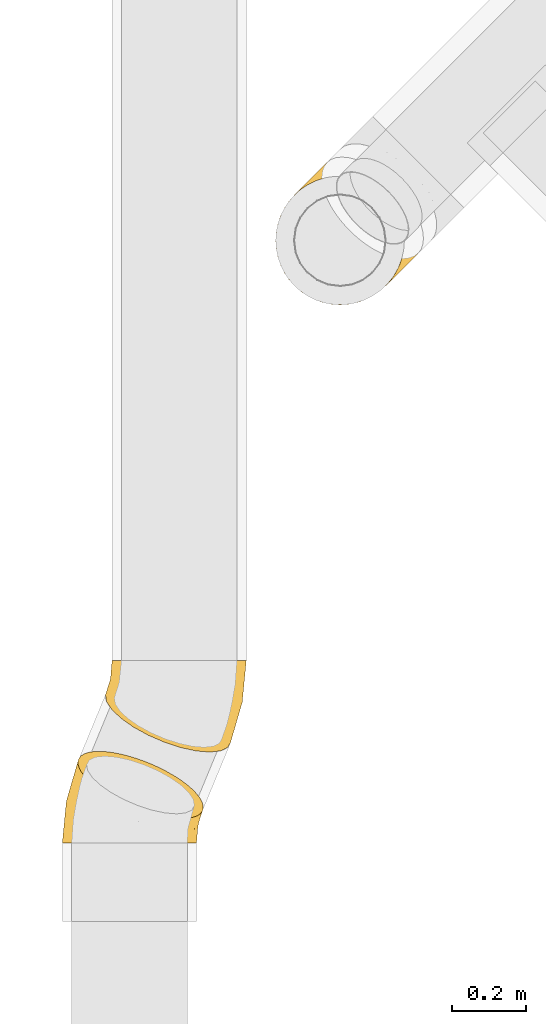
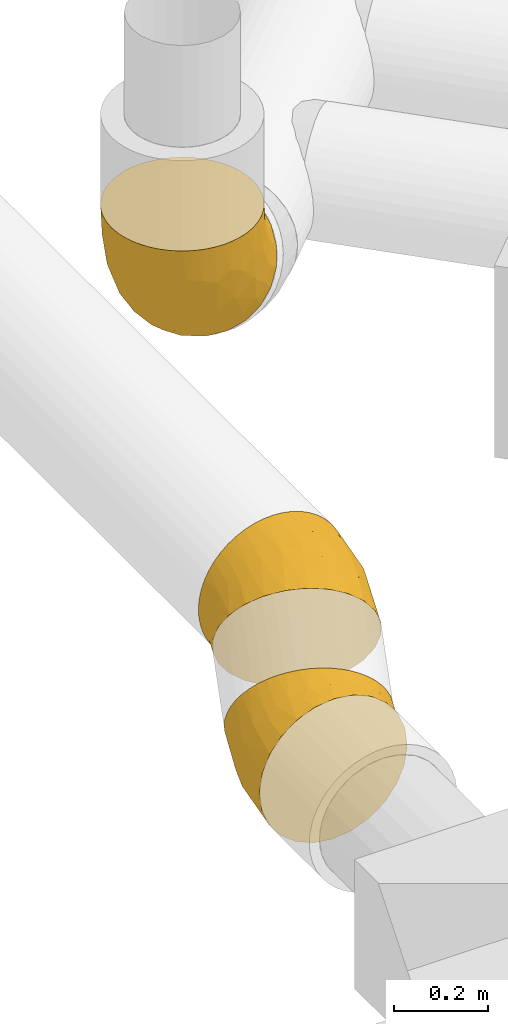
# One storey, part 2 of 12: 3 coverings.
"""IFC2X3 building model written with IfcOpenShell, lengths in millimetres."""

from ifc_helpers import new_model, entity, si_unit, converted_unit, derived_unit, direction, frame, origin_with_axes, place, context, subcontext, project, spatial, open_shell, surface_model, source, transform, mapped, element, save


model = new_model("IFC2X3")

# Units and contexts
model_context = context("Model", 3, precision=0.01, world=frame((0.0, 4.29681676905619e-09, 0.0)), true_north=direction((4.01073788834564e-13, 1.0)))
plan_context = context("Plan", 3, precision=0.01, world=frame((0.0, 4.29681676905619e-09, 0.0)), true_north=direction((4.01073788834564e-13, 1.0)))
body_context = subcontext(model_context, "Body", "Model", "MODEL_VIEW")
ifc_project = project(units=[converted_unit("PLANEANGLEUNIT", "DEGREE", entity("IfcPositiveLengthMeasure", 0.0174532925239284), si_unit("PLANEANGLEUNIT", "RADIAN"), dimensions=[0, 0, 0, 0, 0, 0, 0]), si_unit("AREAUNIT", "SQUARE_METRE"), si_unit("LENGTHUNIT", "METRE", prefix="MILLI"), si_unit("MASSUNIT", "GRAM", prefix="KILO"), si_unit("POWERUNIT", "WATT"), si_unit("PRESSUREUNIT", "PASCAL", prefix="KILO"), si_unit("FORCEUNIT", "NEWTON", prefix="KILO"), si_unit("ELECTRICVOLTAGEUNIT", "VOLT"), si_unit("ELECTRICCURRENTUNIT", "AMPERE"), si_unit("THERMODYNAMICTEMPERATUREUNIT", "DEGREE_CELSIUS"), si_unit("TIMEUNIT", "SECOND"), si_unit("VOLUMEUNIT", "CUBIC_METRE"), derived_unit("LINEARVELOCITYUNIT", [(si_unit("LENGTHUNIT", "METRE"), 1), (si_unit("TIMEUNIT", "SECOND"), -1)]), derived_unit("VOLUMETRICFLOWRATEUNIT", [(si_unit("VOLUMEUNIT", "CUBIC_METRE"), 1), (si_unit("TIMEUNIT", "SECOND"), -1)]), derived_unit("THERMALTRANSMITTANCEUNIT", [(si_unit("POWERUNIT", "WATT"), 1), (si_unit("THERMODYNAMICTEMPERATUREUNIT", "KELVIN"), -1), (si_unit("AREAUNIT", "SQUARE_METRE"), -1)]), derived_unit("SOUNDPRESSUREUNIT", [(si_unit("PRESSUREUNIT", "PASCAL"), 1)])], contexts=[model_context, plan_context])

# Site, building, storey
site_placement = place(None, frame((0.0, -4.29681676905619e-09, 0.0), z_axis=(0.0, 0.0, 1.0), x_axis=(1.0, 0.0, 0.0)))
site = spatial("IfcSite", under=ifc_project, at=site_placement, CompositionType="ELEMENT")
building_placement = place(site_placement, frame((0.0, 4.29681676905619e-09, 0.0), z_axis=(0.0, 0.0, 1.0), x_axis=(1.0, 0.0, 0.0)))
building = spatial("IfcBuilding", under=site, at=building_placement, Name="mc-building", CompositionType="ELEMENT")
storey_placement = place(building_placement, frame((0.0, 0.0, 204000.0), z_axis=(0.0, 0.0, 1.0), x_axis=(1.0, 0.0, 0.0)))
storey = spatial("IfcBuildingStorey", under=building, at=storey_placement, Name="Nivå D", CompositionType="ELEMENT", Elevation=204000.0)

# Coverings
shared_shape_1 = source(origin_with_axes(), body_context, "Body", "SurfaceModel", [
    surface_model("IfcShellBasedSurfaceModel", [(-79.38566, 212.5, 0.0), (-67.84798, 205.83871, 66.9732), (-59.07909, 200.77599, 87.50425), (130.15954, 91.51902, -161.68208), (32.94131, 147.64799, -169.0363), (-78.08893, 211.75134, 22.84352), (-74.22096, 209.51815, 45.29598), (-48.06439, 194.41666, 106.53786), (-34.99237, 186.86952, 123.74833), (-3.60259, 168.74662, 151.55835), (14.17803, 158.48097, 161.68208), (32.95086, 147.64248, 169.03926), (164.42432, 71.73625, -138.84124), (-20.08674, 178.26376, 138.84124), (203.42216, 49.22083, 87.49324), (-67.85201, 205.84105, -66.96196), (-48.07126, 194.42062, -106.52751), (-74.22351, 209.51962, -45.28496), (-59.08459, 200.77917, -87.49324), (-35.00042, 186.87417, -123.73904), (-3.61212, 168.75213, -151.55199), (-78.09011, 211.75201, -22.83318), (14.16829, 158.4866, -161.67743), (-20.0957, 178.26893, -138.8333), (72.16878, 125.0, -175.0), (52.38572, 136.42176, -173.50265), (111.38671, 102.35751, -169.03926), (52.39467, 136.41659, 173.50402), (72.16878, 125.0, 175.0), (91.95185, 113.57824, 173.50265), (111.39625, 102.35201, 169.0363), (147.94969, 81.24788, 151.55199), (130.16928, 91.5134, 161.67743), (179.33798, 63.12583, 123.73904), (164.43328, 71.73107, 138.8333), (192.40882, 55.57938, 106.52751), (203.41665, 49.224, -87.50425), (218.56108, 40.48037, 45.28496), (223.72323, 37.5, 0.0), (212.18957, 44.15896, 66.96196), (222.42768, 38.24799, 22.83318), (179.32993, 63.13048, -123.74833), (192.40196, 55.58335, -106.53786), (147.94015, 81.25338, -151.55835), (91.9429, 113.58341, -173.50402), (222.4265, 38.24867, -22.84352), (212.18554, 44.16129, -66.9732), (218.55852, 40.48184, -45.29598), (-144.33757, 87.5, -151.55445), (-144.33757, 175.0, 0.0), (-144.33757, 169.03701, -45.29333), (-144.33757, 151.55445, -87.5), (-144.33757, 45.29333, -169.03701), (-144.33757, 123.74369, -123.74369), (-144.33757, 169.03701, 45.29333), (-144.33757, 151.55445, 87.5), (-144.33757, -151.55445, -87.5), (-144.33757, 123.74369, 123.74369), (-144.33757, 45.29333, 169.03701), (-144.33757, 87.5, 151.55445), (-144.33757, 0.0, 175.0), (-144.33757, -45.29333, 169.03701), (-144.33757, 0.0, -175.0), (-144.33757, -45.29333, -169.03701), (-144.33757, -87.5, -151.55445), (-144.33757, -123.74369, -123.74369), (-144.33757, -169.03701, -45.29333), (-144.33757, -123.74369, 123.74369), (-144.33757, -87.5, 151.55445), (-144.33757, -169.03701, 45.29333), (-144.33757, -151.55445, 87.5), (-144.33757, -175.0, 0.0), (40.06302, -132.91177, 0.0), (6.68277, -139.21132, 50.73684), (-19.06662, -156.11845, 0.0), (-80.9946, -170.25311, 0.0), (2.60875, 47.74575, 175.0), (52.32182, 30.97999, 169.28574), (41.44864, 82.71735, 175.0), (95.07346, -101.15147, 0.0), (84.04531, -102.78749, 40.4577), (66.5161, -91.62378, 87.67211), (144.73584, -61.54705, 0.0), (-73.25033, -156.63146, 64.20023), (49.40042, -46.86711, 140.37966), (-31.52467, -95.77202, 133.02259), (40.21212, -80.86093, 118.41707), (-51.97833, -161.92204, 31.45844), (144.58452, -24.3132, 92.74705), (102.60106, -28.30655, 125.39878), (-57.89273, -132.37083, 102.25041), (-45.31639, -24.30523, 169.97609), (-42.65341, 21.61364, 175.0), (-92.35964, 5.4631, 175.0), (-63.24981, -67.5687, 156.7761), (92.02657, 12.84579, 153.06577), (18.52422, -32.08489, 157.76862), (148.21683, -47.17155, 52.26849), (187.94082, -14.98317, 0.0), (-89.71961, 200.18449, 0.0), (-90.88522, 194.31459, 27.58769), (-82.73672, 60.41205, 167.50829), (-16.25294, 104.61857, 165.7155), (-35.85062, 142.42326, 145.51136), (-67.94646, 117.6876, 145.51135), (-1.88156, 79.15042, 172.81756), (-43.21446, 73.97928, 168.57058), (-124.58674, 163.91563, 66.9696), (-128.4833, 174.07152, 29.85857), (19.8687, 109.87423, 171.63914), (1.62434, 130.56358, 163.87504), (-110.52498, 177.48868, 41.56339), (-118.68606, 179.52305, 0.0), (-111.0545, 143.93641, 106.53324), (-110.36765, 110.61294, 138.83683), (-64.55999, 162.46884, 115.39017), (-108.47182, 161.52168, 82.13327), (-102.26014, 84.26726, 156.14912), (-69.98626, 89.50322, 158.99308), (-84.19834, 190.94249, 56.25505), (-94.16902, 171.63373, 77.40446), (-97.15411, 183.7371, 46.69668), (-96.1285, 192.54666, 0.0), (-107.40728, 186.03487, 0.0), (-76.58871, 178.68684, 87.35857), (-84.40493, 143.1351, 119.89479), (-131.51181, 177.26153, 0.0), (-103.91497, 83.9564, -156.09967), (-94.47847, 190.85772, -28.61076), (-85.12607, 147.44211, -115.38033), (-70.15342, 176.4161, -97.21854), (-50.36424, 153.62147, -131.56789), (-87.75708, 202.52334, 0.0), (-118.68329, 175.9541, -34.1486), (-129.2239, 168.16506, -53.00048), (25.92901, 108.75861, -172.61782), (2.60875, 47.74575, -175.0), (-22.98429, 78.37134, -170.41351), (-88.69094, 186.69651, -56.24389), (-103.99422, 179.40582, -46.56489), (-118.45724, 141.89145, -106.53326), (-92.35964, 5.4631, -175.0), (-25.01109, 140.56007, -151.21418), (-104.2944, 112.23479, -138.83684), (-77.69359, 195.39202, -61.49208), (-75.30749, 99.17501, -153.45157), (-66.01884, 129.61265, -138.95492), (-82.73671, 60.41206, -167.50829), (-42.65341, 21.61364, -175.0), (-1.83429, 118.7372, -165.71171), (-41.54099, 111.35628, -156.95078), (-84.7549, 199.10473, -34.13215), (-93.18492, 168.83241, -83.01192), (-114.03556, 167.03975, -66.96961), (-125.72706, 156.83788, -81.24571), (41.44864, 82.71735, -175.0), (-103.51808, 154.36271, -96.4593), (9.59552, -16.61993, -165.156), (-61.76948, -64.07957, -158.23157), (-64.88535, -27.43869, -170.69189), (-59.97022, -101.91174, -134.5625), (52.56771, -88.31484, -103.04619), (-39.48477, -128.44337, -101.29974), (5.87723, -137.83605, -55.66695), (108.03059, -73.2318, -70.69845), (35.7655, -61.94549, -135.94125), (85.36115, 5.22148, -152.5933), (60.77116, 40.94038, -169.66664), (125.7509, -25.85714, -110.0534), (123.69519, 7.16512, -134.73389), (-75.06419, -156.91553, -64.27236), (-51.99396, -161.89884, -31.60068), (119.05524, -79.09611, -34.7206), (167.61987, -26.24389, -53.29553), (152.63569, -23.35313, -83.80713)], [open_shell([[[0, 1, 2]], [[0, 3, 4]], [[5, 6, 1]], [[5, 1, 0]], [[2, 7, 8]], [[9, 10, 11]], [[9, 12, 13]], [[2, 3, 0]], [[2, 13, 12]], [[13, 2, 8]], [[11, 14, 9]], [[15, 4, 16]], [[17, 4, 15]], [[15, 16, 18]], [[19, 16, 20]], [[17, 21, 0]], [[20, 4, 22]], [[20, 23, 19]], [[4, 24, 25]], [[20, 16, 4]], [[4, 17, 0]], [[4, 26, 24]], [[11, 27, 28]], [[29, 30, 11]], [[11, 30, 14]], [[14, 30, 31]], [[31, 30, 32]], [[33, 31, 34]], [[33, 35, 14]], [[14, 36, 9]], [[14, 37, 38]], [[37, 14, 39]], [[14, 31, 33]], [[40, 38, 37]], [[41, 12, 42]], [[3, 12, 43]], [[4, 3, 26]], [[12, 3, 2]], [[44, 24, 26]], [[36, 14, 45]], [[46, 45, 47]], [[36, 42, 12]], [[36, 45, 46]], [[36, 12, 9]], [[14, 38, 45]], [[29, 11, 28]], [[48, 49, 50]], [[48, 50, 51]], [[48, 52, 49]], [[48, 51, 53]], [[49, 52, 54]], [[55, 56, 57]], [[55, 54, 52]], [[57, 58, 59]], [[58, 57, 56]], [[60, 58, 61]], [[52, 62, 55]], [[62, 63, 64]], [[64, 56, 55]], [[58, 56, 61]], [[56, 64, 65]], [[61, 56, 66]], [[61, 67, 68]], [[67, 61, 69]], [[67, 69, 70]], [[61, 66, 69]], [[66, 71, 69]], [[64, 55, 62]], [[72, 73, 74]], [[75, 69, 71]], [[76, 77, 78]], [[29, 78, 77]], [[72, 79, 80]], [[81, 73, 80]], [[79, 82, 80]], [[70, 69, 83]], [[84, 85, 86]], [[73, 83, 87]], [[81, 88, 89]], [[67, 90, 85]], [[87, 75, 74]], [[91, 92, 93]], [[94, 61, 68]], [[60, 61, 91]], [[95, 30, 77]], [[60, 91, 93]], [[95, 34, 31]], [[91, 76, 92]], [[88, 39, 14]], [[96, 77, 91]], [[33, 88, 35]], [[77, 76, 91]], [[96, 94, 85]], [[94, 96, 91]], [[80, 82, 97]], [[86, 90, 81]], [[14, 35, 88]], [[33, 89, 88]], [[98, 40, 97]], [[88, 97, 39]], [[81, 80, 97]], [[37, 97, 40]], [[73, 87, 74]], [[97, 37, 39]], [[69, 87, 83]], [[98, 38, 40]], [[67, 85, 68]], [[90, 83, 73]], [[89, 86, 81]], [[29, 77, 30]], [[34, 95, 89]], [[77, 96, 95]], [[90, 67, 70]], [[28, 78, 29]], [[85, 94, 68]], [[95, 31, 32]], [[81, 90, 73]], [[97, 88, 81]], [[61, 94, 91]], [[30, 95, 32]], [[34, 89, 33]], [[83, 90, 70]], [[87, 69, 75]], [[82, 98, 97]], [[72, 80, 73]], [[84, 95, 96]], [[84, 86, 89]], [[90, 86, 85]], [[95, 84, 89]], [[85, 84, 96]], [[60, 93, 58]], [[99, 100, 5]], [[93, 92, 101]], [[6, 5, 100]], [[102, 103, 104]], [[76, 105, 106]], [[106, 92, 76]], [[101, 58, 93]], [[54, 107, 108]], [[109, 110, 102]], [[49, 54, 108]], [[107, 54, 55]], [[5, 0, 99]], [[108, 111, 112]], [[113, 57, 114]], [[115, 104, 103]], [[105, 109, 102]], [[55, 57, 113]], [[116, 111, 107]], [[115, 8, 7]], [[114, 117, 118]], [[100, 119, 6]], [[27, 11, 109]], [[120, 121, 111]], [[8, 115, 103]], [[9, 103, 110]], [[58, 101, 117]], [[103, 102, 110]], [[122, 123, 121]], [[112, 111, 123]], [[28, 27, 78]], [[118, 101, 106]], [[10, 110, 11]], [[9, 13, 103]], [[124, 1, 119]], [[105, 78, 109]], [[120, 116, 125]], [[1, 6, 119]], [[111, 121, 123]], [[100, 121, 119]], [[99, 122, 100]], [[119, 121, 120]], [[78, 27, 109]], [[124, 119, 120]], [[103, 13, 8]], [[124, 2, 1]], [[115, 125, 104]], [[124, 7, 2]], [[121, 100, 122]], [[114, 57, 59]], [[118, 117, 101]], [[125, 114, 104]], [[55, 113, 107]], [[116, 107, 113]], [[106, 105, 102]], [[78, 105, 76]], [[118, 102, 104]], [[92, 106, 101]], [[102, 118, 106]], [[114, 118, 104]], [[114, 59, 117]], [[58, 117, 59]], [[111, 108, 107]], [[108, 112, 126]], [[11, 110, 109]], [[110, 10, 9]], [[120, 115, 124]], [[124, 115, 7]], [[120, 125, 115]], [[114, 125, 113]], [[125, 116, 113]], [[111, 116, 120]], [[49, 108, 126]], [[127, 52, 48]], [[128, 123, 122]], [[129, 130, 131]], [[130, 19, 131]], [[132, 0, 21]], [[126, 133, 134]], [[135, 136, 137]], [[138, 139, 128]], [[122, 132, 128]], [[51, 140, 53]], [[141, 62, 52]], [[22, 142, 20]], [[23, 142, 131]], [[143, 48, 53]], [[144, 18, 130]], [[145, 143, 146]], [[130, 138, 144]], [[142, 23, 20]], [[147, 148, 141]], [[141, 52, 147]], [[149, 135, 137]], [[137, 150, 149]], [[17, 151, 21]], [[145, 137, 147]], [[143, 53, 140]], [[132, 21, 151]], [[134, 51, 50]], [[17, 15, 144]], [[149, 22, 4]], [[137, 148, 147]], [[19, 23, 131]], [[130, 18, 16]], [[140, 129, 143]], [[138, 151, 144]], [[149, 142, 22]], [[131, 142, 146]], [[135, 4, 25]], [[130, 129, 152]], [[25, 24, 135]], [[153, 154, 134]], [[24, 155, 135]], [[146, 129, 131]], [[127, 143, 145]], [[142, 150, 146]], [[128, 151, 138]], [[150, 142, 149]], [[153, 152, 156]], [[130, 16, 19]], [[148, 137, 136]], [[153, 139, 152]], [[17, 144, 151]], [[144, 15, 18]], [[138, 152, 139]], [[139, 123, 128]], [[133, 139, 153]], [[112, 123, 133]], [[130, 152, 138]], [[152, 129, 156]], [[153, 134, 133]], [[156, 154, 153]], [[126, 50, 49]], [[126, 112, 133]], [[126, 134, 50]], [[140, 51, 154]], [[51, 134, 154]], [[145, 146, 150]], [[143, 129, 146]], [[137, 145, 150]], [[127, 145, 147]], [[52, 127, 147]], [[48, 143, 127]], [[135, 155, 136]], [[4, 135, 149]], [[128, 132, 151]], [[133, 123, 139]], [[129, 140, 156]], [[156, 140, 154]], [[157, 158, 159]], [[160, 161, 162]], [[163, 161, 164]], [[159, 62, 141]], [[157, 159, 148]], [[160, 158, 165]], [[166, 167, 3]], [[168, 41, 42]], [[165, 166, 169]], [[136, 157, 148]], [[166, 157, 167]], [[63, 62, 159]], [[66, 56, 170]], [[148, 159, 141]], [[75, 71, 66]], [[72, 171, 163]], [[163, 162, 161]], [[162, 170, 56]], [[160, 162, 65]], [[163, 164, 172]], [[161, 168, 164]], [[171, 66, 170]], [[136, 155, 167]], [[171, 72, 74]], [[163, 170, 162]], [[165, 157, 166]], [[155, 44, 167]], [[63, 159, 158]], [[44, 26, 167]], [[82, 172, 173]], [[165, 158, 157]], [[43, 166, 3]], [[43, 169, 166]], [[161, 160, 165]], [[174, 42, 36]], [[161, 165, 168]], [[158, 160, 64]], [[12, 169, 43]], [[63, 158, 64]], [[174, 173, 164]], [[47, 173, 46]], [[167, 157, 136]], [[172, 72, 163]], [[98, 82, 173]], [[173, 172, 164]], [[173, 174, 46]], [[98, 173, 45]], [[172, 82, 79]], [[38, 98, 45]], [[56, 65, 162]], [[173, 47, 45]], [[164, 168, 174]], [[167, 26, 3]], [[169, 41, 168]], [[160, 65, 64]], [[44, 155, 24]], [[172, 79, 72]], [[74, 75, 171]], [[66, 171, 75]], [[163, 171, 170]], [[42, 174, 168]], [[46, 174, 36]], [[41, 169, 12]], [[165, 169, 168]]])]),
])
covering_1_placement = place(storey_placement, frame((597169.2875, 403005.94192, 2805.09680999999), z_axis=(-0.707230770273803, 0.706982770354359, 4.71844785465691e-16), x_axis=(-0.612265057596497, -0.612479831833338, 0.499999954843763)))
element("IfcCovering", 1, at=covering_1_placement, inside=storey, Name="EI30-30", PredefinedType="INSULATION", context=body_context, shape_type="MappedRepresentation", body=[
    mapped(shared_shape_1, transform((0.0, 0.0, 0.0), scale=1.0)),
])
shared_shape_2 = source(origin_with_axes(), body_context, "Body", "SurfaceModel", [
    surface_model("IfcShellBasedSurfaceModel", [(-11.20774, 188.22038, 69.84097), (-5.92837, 179.07622, 91.25153), (0.70318, 167.59004, 111.1007), (-17.37331, 198.89945, 23.82149), (-15.04461, 194.86601, 47.23535), (-17.37363, 198.90001, -23.81657), (-18.154, 200.25164, 0.0), (96.71124, 1.2992, -176.28254), (38.17788, 102.68196, 168.60946), (49.48076, 83.10479, 176.28254), (61.18772, 62.82775, 180.93928), (27.47247, 121.22428, 158.05133), (8.57343, 153.95837, 129.04883), (17.54771, 138.41446, 144.78881), (-15.04526, 194.86716, -47.23048), (-5.92966, 179.07846, -91.24706), (-11.20872, 188.22207, -69.83624), (38.17552, 102.68606, -168.6075), (0.7016, 167.59279, -111.09658), (8.57159, 153.96155, -129.04515), (17.54565, 138.41802, -144.78565), (27.47024, 121.22815, -158.04875), (61.18526, 62.83201, -180.93863), (49.47833, 83.10902, -176.28123), (73.09601, 42.202, -182.5), (85.00675, 21.57199, 180.93863), (108.01649, -18.28206, 168.6075), (96.71368, 1.29498, 176.28123), (137.62042, -69.55756, 129.04515), (118.72177, -36.82415, 158.04875), (163.56563, -114.49601, 23.81657), (128.64635, -54.01403, 144.78565), (145.49041, -83.18879, 111.09658), (152.12167, -94.67447, 91.24706), (157.40073, -103.81807, 69.83624), (161.23727, -110.46315, 47.23048), (145.48883, -83.18606, -111.1007), (118.71953, -36.82028, -158.05133), (137.61858, -69.55438, -129.04883), (128.64429, -54.01047, -144.78881), (108.01413, -18.27796, -168.60946), (85.00429, 21.57624, -180.93928), (163.56533, -114.49545, -23.82149), (161.23662, -110.46203, -47.23535), (157.39975, -103.81638, -69.84097), (152.12037, -94.67224, -91.25153), (164.346, -115.84763, 0.0), (73.09601, 42.202, 182.5), (-84.404, 176.28146, -47.23448), (-84.404, 176.28146, 47.23448), (-84.404, 182.5, 0.0), (-84.404, 158.04964, -91.25), (-84.404, -47.23448, 176.28146), (-84.404, 91.25, -158.04964), (-84.404, 129.04698, -129.04698), (-84.404, 158.04964, 91.25), (-84.404, 47.23448, 176.28146), (-84.404, 129.04698, 129.04698), (-84.404, 91.25, 158.04964), (-84.404, 0.0, 182.5), (-84.404, 47.23448, -176.28146), (-84.404, -47.23448, -176.28146), (-84.404, -129.04698, -129.04698), (-84.404, -91.25, -158.04964), (-84.404, -158.04964, -91.25), (-84.404, -176.28146, 47.23448), (-84.404, -176.28146, -47.23448), (-84.404, -91.25, 158.04964), (-84.404, -158.04964, 91.25), (-84.404, -129.04698, 129.04698), (-84.404, -182.5, 0.0), (-84.404, 0.0, -182.5), (42.00426, -156.75773, 56.90998), (7.08859, -150.36299, 89.09989), (-19.46721, -178.24383, 0.0), (13.31495, -49.69335, 171.44304), (24.16188, -90.17558, 149.64153), (33.15957, -123.75623, 117.98406), (83.8551, -132.4552, 81.99079), (105.98101, -144.63007, 0.0), (44.35848, -165.54811, 0.0), (5.09026, -18.9971, 179.88577), (-29.70482, 4.78556, 182.5), (23.33235, 18.99682, 182.5), (-18.05748, 67.39372, 172.81601), (-48.41689, 100.5631, 154.23179), (-9.90525, 36.96691, 180.46784), (-34.01957, 126.96169, 137.21262), (-64.51959, 181.86837, 27.66074), (-50.11047, 187.01482, 0.0), (-26.29878, 152.78319, 113.77884), (-11.36093, 103.50526, 158.05125), (-56.56109, 147.07966, 111.09895), (-45.23899, 168.83479, 80.71907), (-42.20432, 184.37999, 41.44215), (-42.63828, 186.6891, -29.72639), (-63.22208, 181.7356, -29.72663), (-38.38948, 143.27052, -120.32849), (-47.60376, 177.6609, -58.65895), (-22.8246, 110.46188, -151.74211), (-47.25116, 86.42657, -162.31518), (-18.05942, 67.39817, -172.8144), (-33.1688, 166.64953, -91.2472), (-29.70482, 4.78556, -182.5), (-57.79575, 156.44901, -97.56437), (-9.90596, 36.96955, -180.46742), (23.33235, 18.99682, -182.5), (-57.49655, 114.19301, -143.78065), (18.92715, -70.64133, -161.89204), (28.92938, -107.96891, -134.92382), (7.40797, -27.65272, -178.12074), (46.99742, -134.37505, -99.18817), (42.00253, -156.75658, -56.91469)], [open_shell([[[0, 1, 2]], [[0, 2, 3]], [[3, 4, 0]], [[5, 6, 3]], [[7, 3, 2]], [[8, 9, 10]], [[11, 7, 2]], [[12, 13, 11]], [[3, 7, 5]], [[2, 12, 11]], [[8, 7, 11]], [[14, 15, 16]], [[14, 17, 18]], [[14, 18, 15]], [[19, 18, 20]], [[14, 5, 17]], [[20, 17, 21]], [[20, 18, 17]], [[17, 22, 23]], [[24, 22, 7]], [[5, 7, 17]], [[22, 17, 7]], [[8, 10, 7]], [[25, 7, 10]], [[26, 25, 27]], [[28, 26, 29]], [[30, 25, 26]], [[31, 28, 29]], [[26, 32, 30]], [[30, 32, 33]], [[34, 35, 30]], [[34, 30, 33]], [[32, 26, 28]], [[36, 25, 30]], [[37, 38, 39]], [[36, 38, 37]], [[7, 36, 37]], [[7, 37, 40]], [[41, 24, 7]], [[30, 42, 43]], [[30, 43, 36]], [[36, 44, 45]], [[44, 36, 43]], [[36, 7, 25]], [[42, 30, 46]], [[10, 47, 25]], [[48, 49, 50]], [[51, 52, 48]], [[52, 49, 48]], [[53, 51, 54]], [[51, 53, 52]], [[55, 56, 57]], [[56, 55, 49]], [[57, 56, 58]], [[56, 49, 52]], [[56, 52, 59]], [[60, 61, 53]], [[52, 53, 61]], [[62, 61, 63]], [[52, 61, 64]], [[64, 61, 62]], [[65, 64, 66]], [[67, 68, 69]], [[68, 67, 52]], [[64, 65, 68]], [[68, 52, 64]], [[70, 65, 66]], [[61, 60, 71]], [[72, 73, 65]], [[74, 65, 70]], [[67, 75, 52]], [[28, 76, 77]], [[34, 33, 78]], [[68, 73, 69]], [[79, 72, 80]], [[80, 72, 74]], [[69, 76, 67]], [[77, 32, 28]], [[75, 81, 52]], [[75, 67, 76]], [[81, 75, 27]], [[81, 82, 59]], [[77, 69, 73]], [[59, 52, 81]], [[83, 82, 81]], [[72, 65, 74]], [[69, 77, 76]], [[65, 73, 68]], [[30, 72, 79]], [[29, 75, 76]], [[77, 78, 32]], [[77, 73, 78]], [[30, 35, 72]], [[35, 34, 72]], [[28, 31, 76]], [[25, 83, 81]], [[47, 83, 25]], [[78, 33, 32]], [[34, 78, 72]], [[29, 26, 75]], [[27, 75, 26]], [[27, 25, 81]], [[31, 29, 76]], [[79, 46, 30]], [[78, 73, 72]], [[84, 85, 58]], [[56, 59, 82]], [[56, 84, 58]], [[86, 82, 83]], [[57, 85, 87]], [[12, 87, 13]], [[50, 88, 89]], [[12, 90, 87]], [[50, 49, 88]], [[13, 91, 11]], [[57, 87, 92]], [[93, 94, 88]], [[55, 93, 49]], [[90, 12, 2]], [[1, 93, 90]], [[55, 92, 93]], [[10, 86, 83]], [[3, 94, 4]], [[9, 86, 10]], [[93, 88, 49]], [[91, 84, 8]], [[87, 91, 13]], [[0, 4, 94]], [[11, 91, 8]], [[9, 8, 84]], [[84, 86, 9]], [[88, 94, 89]], [[90, 2, 1]], [[83, 47, 10]], [[56, 86, 84]], [[93, 1, 0]], [[91, 85, 84]], [[56, 82, 86]], [[94, 93, 0]], [[6, 89, 3]], [[90, 92, 87]], [[85, 91, 87]], [[94, 3, 89]], [[55, 57, 92]], [[92, 90, 93]], [[58, 85, 57]], [[95, 96, 89]], [[50, 89, 96]], [[19, 97, 18]], [[98, 51, 48]], [[96, 95, 98]], [[20, 99, 19]], [[60, 100, 101]], [[18, 102, 15]], [[103, 71, 60]], [[54, 104, 97]], [[60, 105, 103]], [[105, 60, 101]], [[106, 103, 105]], [[23, 101, 17]], [[98, 104, 51]], [[97, 99, 107]], [[17, 99, 21]], [[6, 95, 89]], [[21, 99, 20]], [[107, 53, 54]], [[102, 98, 16]], [[97, 102, 18]], [[53, 100, 60]], [[15, 102, 16]], [[14, 16, 98]], [[98, 95, 14]], [[14, 95, 5]], [[104, 102, 97]], [[6, 5, 95]], [[100, 99, 101]], [[102, 104, 98]], [[96, 98, 48]], [[22, 105, 23]], [[101, 99, 17]], [[24, 106, 22]], [[105, 101, 23]], [[50, 96, 48]], [[22, 106, 105]], [[99, 100, 107]], [[99, 97, 19]], [[97, 107, 54]], [[51, 104, 54]], [[53, 107, 100]], [[63, 108, 109]], [[61, 110, 108]], [[111, 38, 36]], [[108, 37, 39]], [[106, 110, 103]], [[103, 110, 71]], [[62, 109, 111]], [[74, 70, 66]], [[80, 74, 112]], [[64, 112, 66]], [[74, 66, 112]], [[79, 80, 112]], [[63, 109, 62]], [[62, 111, 64]], [[43, 42, 112]], [[106, 41, 110]], [[110, 41, 7]], [[40, 108, 110]], [[109, 108, 39]], [[37, 108, 40]], [[39, 38, 109]], [[111, 45, 44]], [[112, 111, 44]], [[79, 112, 42]], [[64, 111, 112]], [[46, 79, 42]], [[110, 7, 40]], [[110, 61, 71]], [[112, 44, 43]], [[111, 109, 38]], [[36, 45, 111]], [[41, 106, 24]], [[61, 108, 63]]])]),
])
covering_2_placement = place(storey_placement, frame((596732.0, 401779.43538, 2800.0), z_axis=(-0.697236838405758, 8.48878586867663e-09, 0.716840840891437), x_axis=(0.358420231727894, 0.866025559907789, 0.348618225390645)))
element("IfcCovering", 2, at=covering_2_placement, inside=storey, Name="T=25mm", PredefinedType="INSULATION", context=body_context, shape_type="MappedRepresentation", body=[
    mapped(shared_shape_2, transform((0.0, 0.0, 0.0), scale=1.0)),
])
shared_shape_3 = source(origin_with_axes(), body_context, "Body", "SurfaceModel", [
    surface_model("IfcShellBasedSurfaceModel", [(-11.20774, 188.22038, 69.84097), (-5.92837, 179.07622, 91.25153), (0.70318, 167.59004, 111.1007), (-17.37331, 198.89945, 23.82149), (-15.04461, 194.86601, 47.23535), (8.57343, 153.95837, 129.04883), (17.54771, 138.41446, 144.78881), (27.47247, 121.22428, 158.05133), (38.17552, 102.68606, -168.6075), (61.18526, 62.83201, -180.93863), (49.47833, 83.10902, -176.28123), (73.09601, 42.202, -182.5), (96.71124, 1.2992, -176.28254), (157.40073, -103.81807, 69.83624), (161.23727, -110.46315, 47.23048), (163.56563, -114.49601, 23.81657), (-84.404, 176.28146, -47.23448), (-84.404, 176.28146, 47.23448), (-84.404, 182.5, 0.0), (-84.404, 158.04964, 91.25), (-84.404, 47.23448, 176.28146), (-84.404, 129.04698, 129.04698), (-84.404, 91.25, 158.04964), (-84.404, -47.23448, -176.28146), (-84.404, 47.23448, -176.28146), (-84.404, 0.0, -182.5), (42.00426, -156.75773, 56.90998), (7.08859, -150.36299, 89.09989), (-84.404, -176.28146, 47.23448), (-19.46721, -178.24383, 0.0), (-84.404, -182.5, 0.0), (-84.404, -91.25, 158.04964), (13.31495, -49.69335, 171.44304), (-84.404, -47.23448, 176.28146), (137.62042, -69.55756, 129.04515), (24.16188, -90.17558, 149.64153), (33.15957, -123.75623, 117.98406), (152.12167, -94.67447, 91.24706), (83.8551, -132.4552, 81.99079), (-84.404, -158.04964, 91.25), (-84.404, -129.04698, 129.04698), (105.98101, -144.63007, 0.0), (44.35848, -165.54811, 0.0), (145.49041, -83.18879, 111.09658), (5.09026, -18.9971, 179.88577), (96.71368, 1.29498, 176.28123), (-29.70482, 4.78556, 182.5), (-84.404, 0.0, 182.5), (23.33235, 18.99682, 182.5), (118.72177, -36.82415, 158.04875), (128.64635, -54.01403, 144.78565), (85.00675, 21.57199, 180.93863), (73.09601, 42.202, 182.5), (108.01649, -18.28206, 168.6075), (164.346, -115.84763, 0.0), (-18.05748, 67.39372, 172.81601), (-48.41689, 100.5631, 154.23179), (-9.90525, 36.96691, 180.46784), (-34.01957, 126.96169, 137.21262), (-64.51959, 181.86837, 27.66074), (-50.11047, 187.01482, 0.0), (-26.29878, 152.78319, 113.77884), (-11.36093, 103.50526, 158.05125), (-56.56109, 147.07966, 111.09895), (-45.23899, 168.83479, 80.71907), (-42.20432, 184.37999, 41.44215), (61.18772, 62.82775, 180.93928), (49.48076, 83.10479, 176.28254), (38.17788, 102.68196, 168.60946), (-18.154, 200.25164, 0.0), (-42.63828, 186.6891, -29.72639), (-63.22208, 181.7356, -29.72663), (8.57159, 153.96155, -129.04515), (-38.38948, 143.27052, -120.32849), (0.7016, 167.59279, -111.09658), (-47.60376, 177.6609, -58.65895), (-84.404, 158.04964, -91.25), (17.54565, 138.41802, -144.78565), (-22.8246, 110.46188, -151.74211), (-47.25116, 86.42657, -162.31518), (-18.05942, 67.39817, -172.8144), (-33.1688, 166.64953, -91.2472), (-5.92966, 179.07846, -91.24706), (-29.70482, 4.78556, -182.5), (-84.404, 129.04698, -129.04698), (-57.79575, 156.44901, -97.56437), (-9.90596, 36.96955, -180.46742), (23.33235, 18.99682, -182.5), (-57.49655, 114.19301, -143.78065), (27.47024, 121.22815, -158.04875), (-84.404, 91.25, -158.04964), (-11.20872, 188.22207, -69.83624), (-15.04526, 194.86716, -47.23048), (-17.37363, 198.90001, -23.81657), (-84.404, -91.25, -158.04964), (18.92715, -70.64133, -161.89204), (28.92938, -107.96891, -134.92382), (7.40797, -27.65272, -178.12074), (46.99742, -134.37505, -99.18817), (137.61858, -69.55438, -129.04883), (145.48883, -83.18606, -111.1007), (118.71953, -36.82028, -158.05133), (128.64429, -54.01047, -144.78881), (-84.404, -129.04698, -129.04698), (-84.404, -176.28146, -47.23448), (42.00253, -156.75658, -56.91469), (-84.404, -158.04964, -91.25), (161.23662, -110.46203, -47.23535), (163.56533, -114.49545, -23.82149), (85.00429, 21.57624, -180.93928), (108.01413, -18.27796, -168.60946), (152.12037, -94.67224, -91.25153), (157.39975, -103.81638, -69.84097)], [open_shell([[[0, 1, 2]], [[0, 2, 3]], [[3, 4, 0]], [[5, 6, 7]], [[8, 9, 10]], [[11, 9, 12]], [[13, 14, 15]], [[16, 17, 18]], [[19, 20, 21]], [[21, 20, 22]], [[23, 24, 25]], [[26, 27, 28]], [[29, 28, 30]], [[31, 32, 33]], [[34, 35, 36]], [[13, 37, 38]], [[39, 27, 40]], [[41, 26, 42]], [[42, 26, 29]], [[40, 35, 31]], [[36, 43, 34]], [[32, 44, 33]], [[32, 31, 35]], [[44, 32, 45]], [[44, 46, 47]], [[36, 40, 27]], [[47, 33, 44]], [[48, 46, 44]], [[26, 28, 29]], [[40, 36, 35]], [[28, 27, 39]], [[15, 26, 41]], [[49, 32, 35]], [[36, 38, 43]], [[36, 27, 38]], [[15, 14, 26]], [[14, 13, 26]], [[34, 50, 35]], [[51, 48, 44]], [[52, 48, 51]], [[38, 37, 43]], [[13, 38, 26]], [[49, 53, 32]], [[45, 32, 53]], [[45, 51, 44]], [[50, 49, 35]], [[41, 54, 15]], [[38, 27, 26]], [[55, 56, 22]], [[20, 47, 46]], [[20, 55, 22]], [[57, 46, 48]], [[21, 56, 58]], [[5, 58, 6]], [[18, 59, 60]], [[5, 61, 58]], [[18, 17, 59]], [[6, 62, 7]], [[21, 58, 63]], [[64, 65, 59]], [[19, 64, 17]], [[61, 5, 2]], [[1, 64, 61]], [[19, 63, 64]], [[66, 57, 48]], [[3, 65, 4]], [[67, 57, 66]], [[64, 59, 17]], [[62, 55, 68]], [[58, 62, 6]], [[0, 4, 65]], [[7, 62, 68]], [[67, 68, 55]], [[55, 57, 67]], [[59, 65, 60]], [[61, 2, 1]], [[48, 52, 66]], [[20, 57, 55]], [[64, 1, 0]], [[62, 56, 55]], [[20, 46, 57]], [[65, 64, 0]], [[69, 60, 3]], [[61, 63, 58]], [[56, 62, 58]], [[65, 3, 60]], [[19, 21, 63]], [[63, 61, 64]], [[22, 56, 21]], [[70, 71, 60]], [[18, 60, 71]], [[72, 73, 74]], [[75, 76, 16]], [[71, 70, 75]], [[77, 78, 72]], [[24, 79, 80]], [[74, 81, 82]], [[83, 25, 24]], [[84, 85, 73]], [[24, 86, 83]], [[86, 24, 80]], [[87, 83, 86]], [[10, 80, 8]], [[75, 85, 76]], [[73, 78, 88]], [[8, 78, 89]], [[69, 70, 60]], [[89, 78, 77]], [[88, 90, 84]], [[81, 75, 91]], [[73, 81, 74]], [[90, 79, 24]], [[82, 81, 91]], [[92, 91, 75]], [[75, 70, 92]], [[92, 70, 93]], [[85, 81, 73]], [[69, 93, 70]], [[79, 78, 80]], [[81, 85, 75]], [[71, 75, 16]], [[9, 86, 10]], [[80, 78, 8]], [[11, 87, 9]], [[86, 80, 10]], [[18, 71, 16]], [[9, 87, 86]], [[78, 79, 88]], [[78, 73, 72]], [[73, 88, 84]], [[76, 85, 84]], [[90, 88, 79]], [[94, 95, 96]], [[23, 97, 95]], [[98, 99, 100]], [[95, 101, 102]], [[87, 97, 83]], [[83, 97, 25]], [[103, 96, 98]], [[29, 30, 104]], [[42, 29, 105]], [[106, 105, 104]], [[29, 104, 105]], [[41, 42, 105]], [[94, 96, 103]], [[103, 98, 106]], [[107, 108, 105]], [[87, 109, 97]], [[97, 109, 12]], [[110, 95, 97]], [[96, 95, 102]], [[101, 95, 110]], [[102, 99, 96]], [[98, 111, 112]], [[105, 98, 112]], [[41, 105, 108]], [[106, 98, 105]], [[54, 41, 108]], [[97, 12, 110]], [[97, 23, 25]], [[105, 112, 107]], [[98, 96, 99]], [[100, 111, 98]], [[109, 87, 11]], [[23, 95, 94]], [[92, 69, 3]], [[3, 2, 67]], [[7, 68, 67]], [[92, 3, 111]], [[7, 67, 2]], [[5, 7, 2]], [[49, 3, 67]], [[92, 72, 91]], [[111, 8, 72]], [[82, 72, 74]], [[72, 82, 91]], [[93, 69, 92]], [[72, 8, 89]], [[89, 77, 72]], [[9, 8, 111]], [[92, 111, 72]], [[67, 66, 51]], [[51, 49, 67]], [[49, 51, 45]], [[111, 3, 49]], [[49, 45, 53]], [[34, 49, 50]], [[13, 34, 43]], [[13, 43, 37]], [[49, 13, 111]], [[13, 49, 34]], [[108, 13, 15]], [[99, 102, 111]], [[110, 102, 101]], [[11, 12, 109]], [[111, 102, 110]], [[12, 9, 110]], [[111, 13, 108]], [[111, 108, 107]], [[111, 100, 99]], [[111, 107, 112]], [[111, 110, 9]], [[54, 108, 15]], [[51, 66, 52]], [[84, 16, 76]], [[23, 20, 16]], [[90, 16, 84]], [[90, 23, 16]], [[19, 17, 16]], [[16, 20, 19]], [[20, 31, 47]], [[23, 90, 24]], [[23, 28, 20]], [[106, 23, 94]], [[28, 23, 106]], [[106, 94, 103]], [[30, 106, 104]], [[31, 28, 40]], [[33, 47, 31]], [[40, 28, 39]], [[28, 31, 20]], [[106, 30, 28]]])]),
])
covering_3_placement = place(storey_placement, frame((596596.8026, 401452.76772, 2668.5), z_axis=(0.697236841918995, 0.0, -0.71684083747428), x_axis=(0.0, 1.0, 0.0)))
element("IfcCovering", 3, at=covering_3_placement, inside=storey, Name="T=25mm", PredefinedType="INSULATION", context=body_context, shape_type="MappedRepresentation", body=[
    mapped(shared_shape_3, transform((0.0, 0.0, 0.0), scale=1.0)),
])

save(model, "model.ifc")
